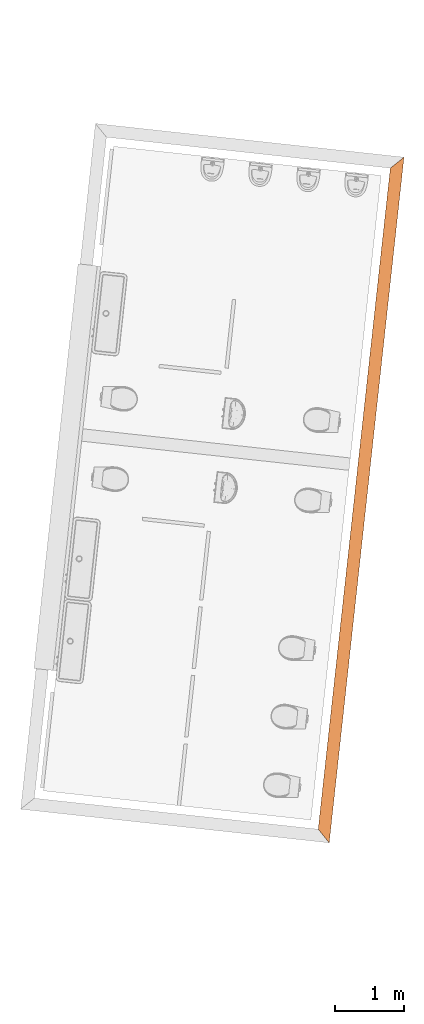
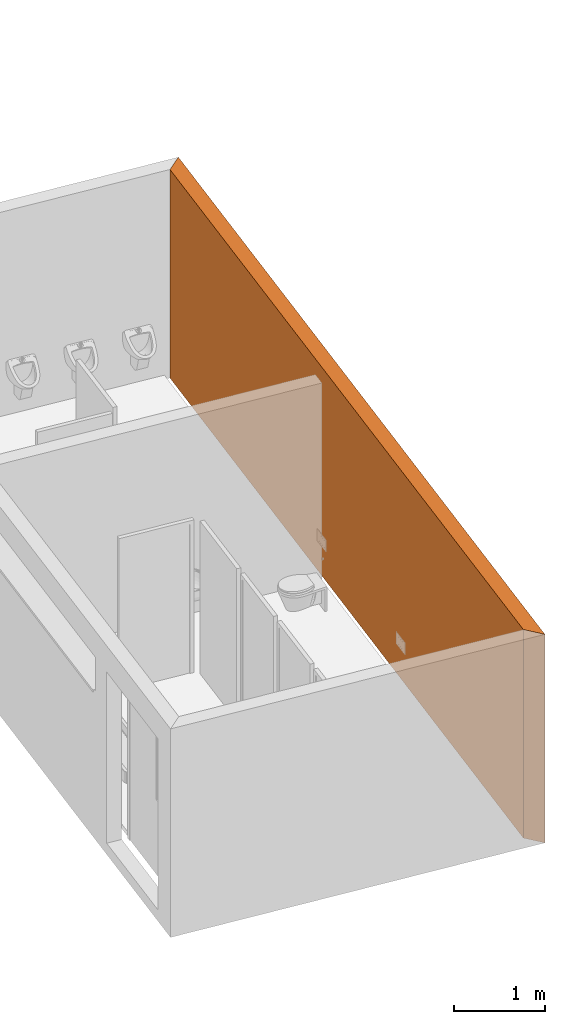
# One storey, part 37 of 79: 1 proxy.
"""IFC2X3 building model written with IfcOpenShell, lengths in metres."""

from ifc_helpers import new_model, entity, si_unit, converted_unit, derived_unit, money_unit, direction, frame, origin_with_axes, place, context, subcontext, project, spatial, polyline, outline, extrude, material, type_object, element, save


model = new_model("IFC2X3")

# Units and contexts
model_context = context("Model", 3, precision=1e-05, world=origin_with_axes(), true_north=direction((0.0, 1.0)))
body_context = subcontext(model_context, "Body", "Model", "MODEL_VIEW")
ifc_project = project(units=[si_unit("LENGTHUNIT", "METRE"), si_unit("AREAUNIT", "SQUARE_METRE"), si_unit("VOLUMEUNIT", "CUBIC_METRE"), converted_unit("PLANEANGLEUNIT", "DEGREE", entity("IfcPlaneAngleMeasure", 0.0174532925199), si_unit("PLANEANGLEUNIT", "RADIAN"), dimensions=[0, 0, 0, 0, 0, 0, 0]), money_unit("CHF"), converted_unit("TIMEUNIT", "Year", entity("IfcTimeMeasure", 31556926.0), si_unit("TIMEUNIT", "SECOND"), dimensions=[0, 0, 1, 0, 0, 0, 0]), si_unit("MASSUNIT", "GRAM", prefix="KILO"), si_unit("THERMODYNAMICTEMPERATUREUNIT", "DEGREE_CELSIUS"), si_unit("LUMINOUSINTENSITYUNIT", "LUMEN"), si_unit("ENERGYUNIT", "JOULE", prefix="MEGA"), derived_unit("THERMALCONDUCTANCEUNIT", [(si_unit("POWERUNIT", "WATT"), 1), (si_unit("LENGTHUNIT", "METRE"), -1), (si_unit("THERMODYNAMICTEMPERATUREUNIT", "KELVIN"), -1)]), derived_unit("SPECIFICHEATCAPACITYUNIT", [(si_unit("ENERGYUNIT", "JOULE"), 1), (si_unit("MASSUNIT", "GRAM", prefix="KILO"), -1), (si_unit("THERMODYNAMICTEMPERATUREUNIT", "KELVIN"), -1)]), derived_unit("MASSDENSITYUNIT", [(si_unit("MASSUNIT", "GRAM", prefix="KILO"), 1), (si_unit("VOLUMEUNIT", "CUBIC_METRE"), -1)])], contexts=[model_context])

# Site, building, storey
site_placement = place(None, frame((0.0, 0.0, 0.0), z_axis=(0.0, 0.0, 1.0), x_axis=(-0.177771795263, -0.984071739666, 0.0)))
site = spatial("IfcSite", under=ifc_project, at=site_placement, Name="Site", CompositionType="ELEMENT")
building_placement = place(site_placement, origin_with_axes())
building = spatial("IfcBuilding", under=site, at=building_placement, Name="Bâtiment", CompositionType="ELEMENT")
storey_placement = place(building_placement, origin_with_axes())
storey = spatial("IfcBuildingStorey", under=building, at=storey_placement, Name="RDC", CompositionType="ELEMENT", Elevation=0.0)

# Proxy
ifc_material = material(Name="_BA banché")
building_element_proxy_type = type_object("IfcBuildingElementProxyType", Name="_M ext 18 +12 300", PredefinedType="NOTDEFINED")
proxy_placement = place(storey_placement, frame((131.822985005, -120.356430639, -0.1), z_axis=(0.0, 0.0, 1.0), x_axis=(0.997543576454, 0.0700486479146, 0.0)))
element("IfcBuildingElementProxy", 1, at=proxy_placement, inside=storey, type_object=building_element_proxy_type, material=ifc_material, Name="M-Ext_BlocSanit", context=body_context, shape_type="SweptSolid", body=[
    extrude(outline(polyline([(0.180000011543, -0.18), (9.82000001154, -0.18), (10.0, 0.0), (0.0, 0.0), (0.180000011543, -0.18)])), origin_with_axes(), (0.0, 0.0, 1.0), 2.8),
])

save(model, "model.ifc")
